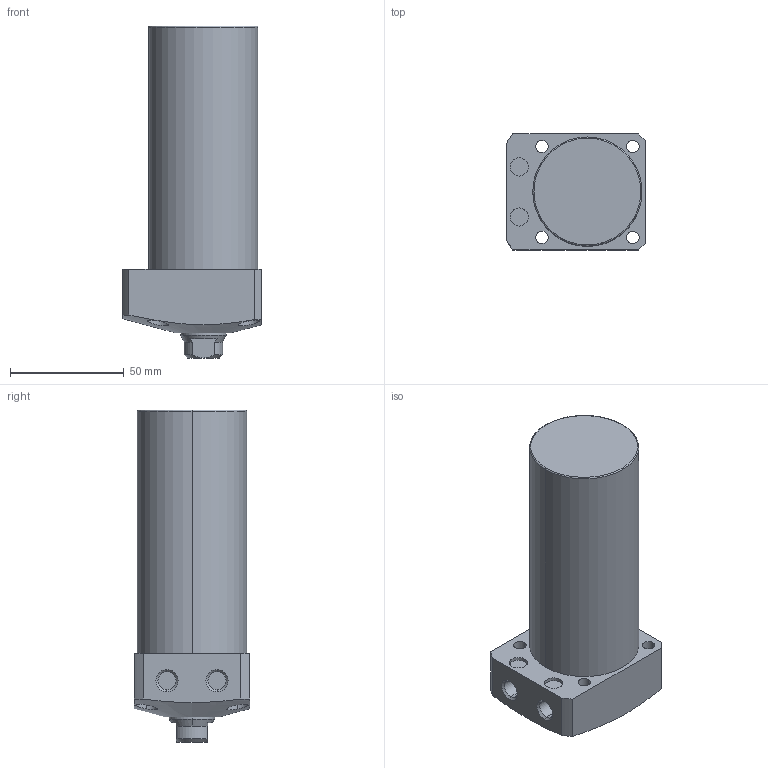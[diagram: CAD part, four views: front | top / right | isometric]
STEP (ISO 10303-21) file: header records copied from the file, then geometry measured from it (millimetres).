
FILE_DESCRIPTION (( 'STEP AP203' ), '1' );
FILE_NAME ('CLL048-CA-080.STEP', '2017-05-17T10:45:10', ( '' ), ( '' ), 'SwSTEP 2.0', 'SolidWorks 2015', '' );
FILE_SCHEMA (( 'CONFIG_CONTROL_DESIGN' ));
Length unit declared in the file: millimetre
Products named in the file (1): CLL048-CA-080
Bounding box: 61 x 51 x 146 mm (x, y, z)
Volume: 267823 mm3; surface area: 30911.6 mm2
Topology: 1 solids, 1 shells, 74 faces, 170 edges, 107 vertices
Faces by surface type: cylinder 35, plane 22, cone 15, torus 2
Entity records: 2535 total; most frequent: CARTESIAN_POINT 748, DIRECTION 374, ORIENTED_EDGE 336, EDGE_CURVE 168, AXIS2_PLACEMENT_3D 155, VERTEX_POINT 107, EDGE_LOOP 93, CIRCLE 80
